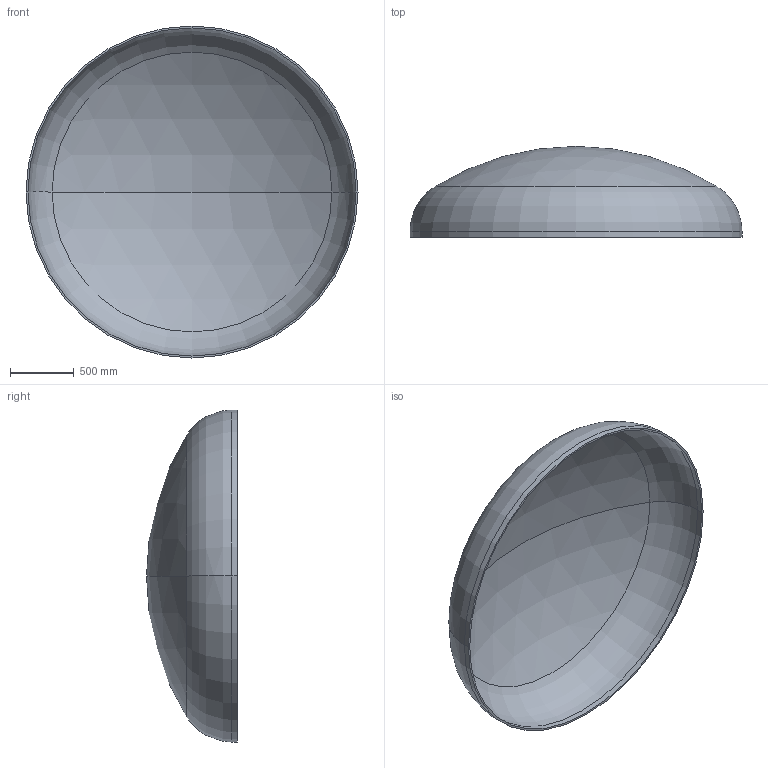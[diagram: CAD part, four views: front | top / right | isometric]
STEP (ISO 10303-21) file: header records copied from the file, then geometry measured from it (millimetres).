
FILE_DESCRIPTION (( 'STEP AP203' ), '1' );
FILE_NAME ('DIN 28013 Korbbogenform_-_Boden DIN 28013 - 2600 x 45 - I - s=15.step', '2016-07-01T15:55:40', ( '' ), ( '' ), 'SwSTEP 2.0', 'SolidWorks 2013', '' );
FILE_SCHEMA (( 'CONFIG_CONTROL_DESIGN' ));
Length unit declared in the file: millimetre
Products named in the file (1): DIN 28013 Korbbogenform_-_Boden DIN 28013 - 2600 x 45 - I - s=15
Bounding box: 2600 x 712 x 2600 mm (x, y, z)
Volume: 114924408.4 mm3; surface area: 15445534.9 mm2
Topology: 1 solids, 1 shells, 13 faces, 24 edges, 14 vertices
Faces by surface type: torus 4, cylinder 4, sphere 4, plane 1
Entity records: 407 total; most frequent: DIRECTION 72, CARTESIAN_POINT 52, ORIENTED_EDGE 48, AXIS2_PLACEMENT_3D 34, EDGE_CURVE 24, CIRCLE 20, VERTEX_POINT 14, EDGE_LOOP 14
